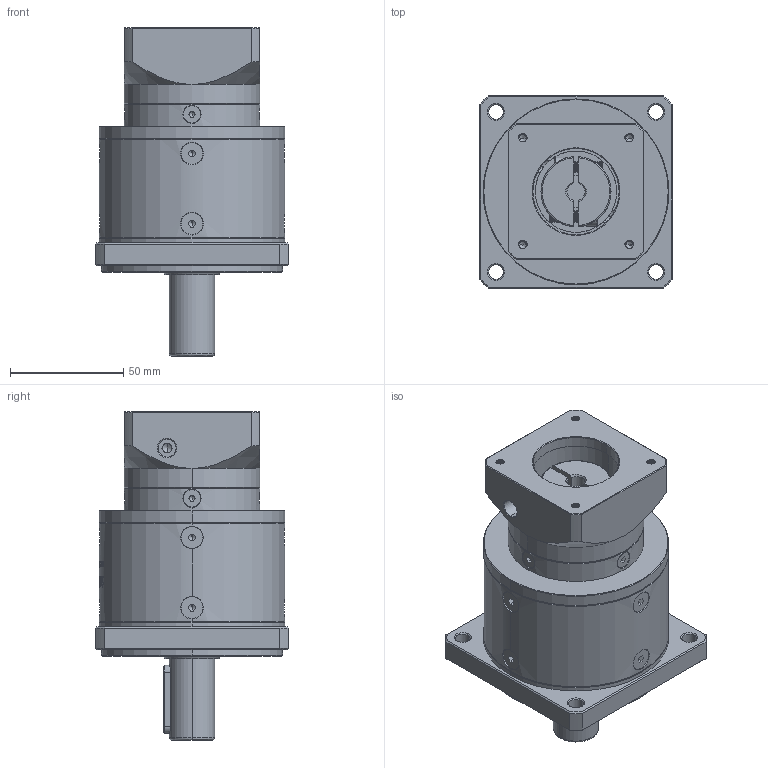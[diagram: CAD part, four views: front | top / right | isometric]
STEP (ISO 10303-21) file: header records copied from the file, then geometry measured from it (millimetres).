
FILE_DESCRIPTION (( 'STEP AP214' ), '1' );
FILE_NAME ('ZF80-D20-L2-8-38.1-47.14X47.14-M4.step', '2022-05-08T09:23:55', ( '' ), ( 'Microsoft' ), 'SwSTEP 2.0', 'SolidWorks 2016', '' );
FILE_SCHEMA (( 'AUTOMOTIVE_DESIGN' ));
Length unit declared in the file: millimetre
Products named in the file (1): ZF80-D20-L2-8-38.1-47.14X47.14-M4
Bounding box: 85 x 85 x 145 mm (x, y, z)
Volume: 474473.4 mm3; surface area: 67655.4 mm2
Topology: 18 solids, 18 shells, 2003 faces, 5235 edges, 3328 vertices
Faces by surface type: plane 948, cylinder 393, bspline 328, cone 320, torus 14
Entity records: 105384 total; most frequent: CARTESIAN_POINT 37528, ORIENTED_EDGE 10394, DIRECTION 8299, EDGE_CURVE 5197, VERTEX_POINT 3328, VECTOR 2803, LINE 2803, AXIS2_PLACEMENT_3D 2748
